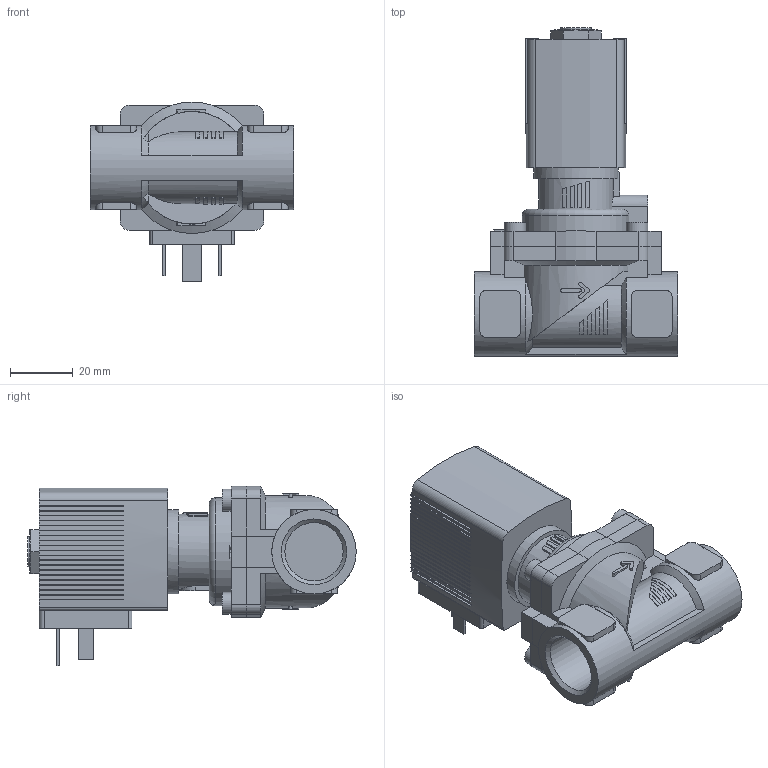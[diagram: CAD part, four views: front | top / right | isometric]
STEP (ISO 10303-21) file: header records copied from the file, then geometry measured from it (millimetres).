
FILE_DESCRIPTION(/* description */ ('STEP AP214'),/* implementation_level */ '2;1');
FILE_NAME(/* name */ '6281-246485-2_2-Way_Solenoid_Valve__Servo-assisted__General_Purpose',/* time_stamp */ '2024-06-17T12:30:48+02:00',/* author */ ('License CC BY-ND 4.0'),/* organization */ ('CADENAS'),/* preprocessor_version */ 'ST-DEVELOPER v19.3',/* originating_system */ 'PARTsolutions',/* authorisation */ ' ');
FILE_SCHEMA (('AUTOMOTIVE_DESIGN {1 0 10303 214 3 1 1}'));
Length unit declared in the file: millimetre
Products named in the file (4): 6281-246485-2/2-Way Solenoid Valve, Servo-assisted, General Purpose; 5281ev130VA2/2-Wege-Magnetventil mit Servomembran-Deckel 42 ; 6213-13G1/2VA-Gehaeuse-; AC10ex-5OO-Plan-Coil
Assembly tree (3 placements, depth 2):
  6281-246485-2/2-Way Solenoid Valve, Servo-assisted, General Purpose
    5281ev130VA2/2-Wege-Magnetventil mit Servomembran-Deckel 42 
    6213-13G1/2VA-Gehaeuse-
    AC10ex-5OO-Plan-Coil
Bounding box: 65 x 105 x 57.5 mm (x, y, z)
Volume: 120448.9 mm3; surface area: 30269.7 mm2
Topology: 3 solids, 3 shells, 547 faces, 1502 edges, 990 vertices
Faces by surface type: plane 441, cylinder 90, cone 15, torus 1
Full cylindrical faces by diameter (mm): 2.013 x1, 7 x4, 9.74 x1, 18.631 x2, 27 x2
Entity records: 19989 total; most frequent: CARTESIAN_POINT 3275, ORIENTED_EDGE 2960, DIRECTION 2840, EDGE_CURVE 1480, LINE 1084, VECTOR 1084, VERTEX_POINT 984, AXIS2_PLACEMENT_3D 878
